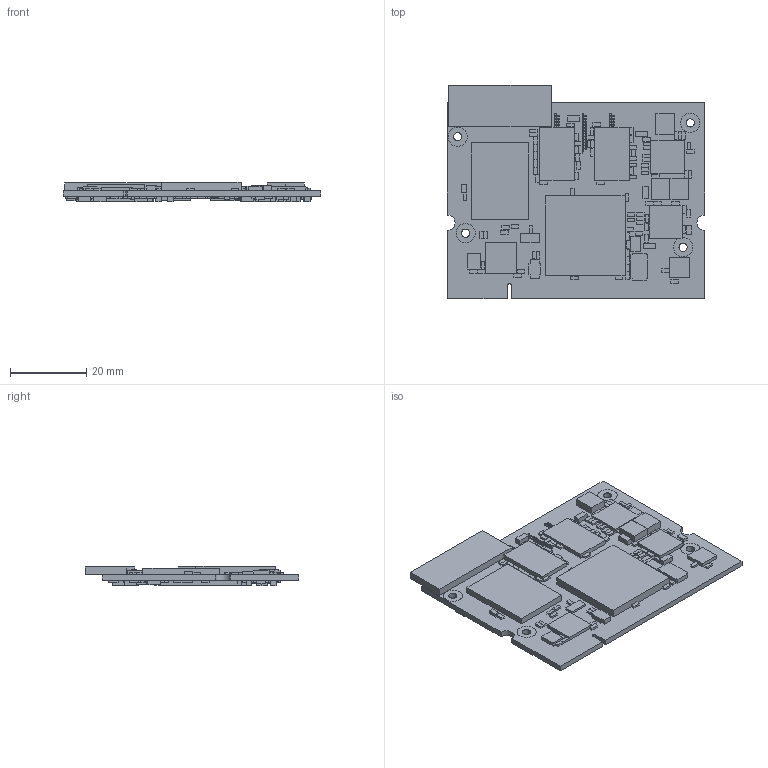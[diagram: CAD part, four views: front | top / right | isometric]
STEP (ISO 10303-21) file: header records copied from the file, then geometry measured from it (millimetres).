
FILE_DESCRIPTION (( 'STEP AP203' ), '1' );
FILE_NAME ('VAR-SOM-MX6_v1.02_r02.STEP', '2012-09-25T13:09:23', ( 'gaby' ), ( '' ), 'SwSTEP 2.0', 'SolidWorks 2011', '' );
FILE_SCHEMA (( 'CONFIG_CONTROL_DESIGN' ));
Length unit declared in the file: millimetre
Products named in the file (1): VAR-SOM-MX6_v1.02_r02
Bounding box: 67.6 x 56.19 x 5.07 mm (x, y, z)
Volume: 9285.1 mm3; surface area: 15911 mm2
Topology: 395 solids, 395 shells, 2470 faces, 5040 edges, 3360 vertices
Faces by surface type: plane 2291, cylinder 179
Entity records: 63023 total; most frequent: CARTESIAN_POINT 10871, DIRECTION 10340, ORIENTED_EDGE 10080, EDGE_CURVE 5040, LINE 4682, VECTOR 4682, VERTEX_POINT 3360, AXIS2_PLACEMENT_3D 2829
